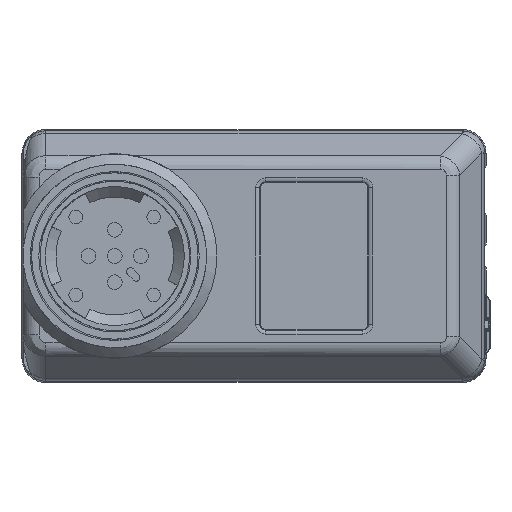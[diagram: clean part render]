
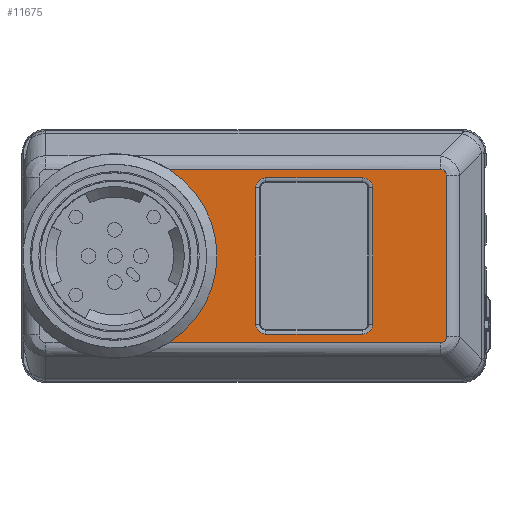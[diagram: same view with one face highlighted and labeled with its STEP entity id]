
A CAD part, front view. The second image highlights one B-rep face of the part: STEP entity #11675.
In plain terms, the highlighted planar face has unit normal (0, -1, 0).
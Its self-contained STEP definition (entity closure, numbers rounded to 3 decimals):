
#747=DIRECTION('',(1.,0.,0.));
#748=VECTOR('',#747,103.572);
#749=CARTESIAN_POINT('',(20.741,514.,-33.028));
#750=LINE('',#749,#748);
#755=CARTESIAN_POINT('',(0.,514.,0.));
#756=DIRECTION('',(0.,-1.,0.));
#757=DIRECTION('',(0.532,0.,-0.847));
#758=AXIS2_PLACEMENT_3D('',#755,#756,#757);
#760=CARTESIAN_POINT('',(0.,514.,0.));
#761=DIRECTION('',(0.,-1.,0.));
#762=DIRECTION('',(1.,0.,0.));
#763=AXIS2_PLACEMENT_3D('',#760,#761,#762);
#765=CARTESIAN_POINT('',(94.6,514.,-26.));
#766=DIRECTION('',(0.,-1.,0.));
#767=DIRECTION('',(0.,0.,-1.));
#768=AXIS2_PLACEMENT_3D('',#765,#766,#767);
#770=CARTESIAN_POINT('',(94.6,514.,26.));
#771=DIRECTION('',(0.,-1.,0.));
#772=DIRECTION('',(1.,0.,0.));
#773=AXIS2_PLACEMENT_3D('',#770,#771,#772);
#775=CARTESIAN_POINT('',(57.6,514.,26.));
#776=DIRECTION('',(0.,-1.,0.));
#777=DIRECTION('',(0.,0.,1.));
#778=AXIS2_PLACEMENT_3D('',#775,#776,#777);
#780=CARTESIAN_POINT('',(57.6,514.,-26.));
#781=DIRECTION('',(0.,-1.,0.));
#782=DIRECTION('',(-1.,0.,0.));
#783=AXIS2_PLACEMENT_3D('',#780,#781,#782);
#798=DIRECTION('',(-1.,0.,0.));
#799=VECTOR('',#798,103.572);
#800=CARTESIAN_POINT('',(124.313,514.,33.028));
#801=LINE('',#800,#799);
#1420=CARTESIAN_POINT('',(124.313,514.,-33.028));
#1421=CARTESIAN_POINT('',(124.648,514.,-33.028));
#1422=CARTESIAN_POINT('',(125.244,514.,-32.903));
#1423=CARTESIAN_POINT('',(125.941,514.,-32.438));
#1424=CARTESIAN_POINT('',(126.368,514.,-31.741));
#1425=CARTESIAN_POINT('',(126.478,514.,-31.175));
#1426=CARTESIAN_POINT('',(126.478,514.,-30.863));
#1446=DIRECTION('',(0.,0.,1.));
#1447=VECTOR('',#1446,61.725);
#1448=CARTESIAN_POINT('',(126.478,514.,-30.863));
#1449=LINE('',#1448,#1447);
#1612=CARTESIAN_POINT('',(126.478,514.,30.863));
#1613=CARTESIAN_POINT('',(126.478,514.,31.198));
#1614=CARTESIAN_POINT('',(126.353,514.,31.794));
#1615=CARTESIAN_POINT('',(125.888,514.,32.491));
#1616=CARTESIAN_POINT('',(125.191,514.,32.918));
#1617=CARTESIAN_POINT('',(124.625,514.,33.028));
#1618=CARTESIAN_POINT('',(124.313,514.,33.028));
#8040=DIRECTION('',(-1.,0.,0.));
#8041=VECTOR('',#8040,37.);
#8042=CARTESIAN_POINT('',(94.6,514.,-29.803));
#8043=LINE('',#8042,#8041);
#8054=DIRECTION('',(0.,0.,1.));
#8055=VECTOR('',#8054,52.);
#8056=CARTESIAN_POINT('',(53.797,514.,-26.));
#8057=LINE('',#8056,#8055);
#8068=DIRECTION('',(1.,0.,0.));
#8069=VECTOR('',#8068,37.);
#8070=CARTESIAN_POINT('',(57.6,514.,29.803));
#8071=LINE('',#8070,#8069);
#8082=DIRECTION('',(0.,0.,-1.));
#8083=VECTOR('',#8082,52.);
#8084=CARTESIAN_POINT('',(98.403,514.,26.));
#8085=LINE('',#8084,#8083);
#8846=CARTESIAN_POINT('',(20.741,514.,33.028));
#8847=VERTEX_POINT('',#8846);
#8848=CARTESIAN_POINT('',(39.,514.,0.));
#8849=VERTEX_POINT('',#8848);
#8850=CARTESIAN_POINT('',(20.741,514.,-33.028));
#8851=VERTEX_POINT('',#8850);
#8862=CARTESIAN_POINT('',(124.313,514.,33.028));
#8863=VERTEX_POINT('',#8862);
#8864=VERTEX_POINT('',#1612);
#8865=CARTESIAN_POINT('',(126.478,514.,-30.863));
#8866=VERTEX_POINT('',#8865);
#8867=VERTEX_POINT('',#1420);
#8868=CARTESIAN_POINT('',(94.6,514.,-29.803));
#8869=CARTESIAN_POINT('',(98.403,514.,-26.));
#8870=VERTEX_POINT('',#8868);
#8871=VERTEX_POINT('',#8869);
#8872=CARTESIAN_POINT('',(98.403,514.,26.));
#8873=VERTEX_POINT('',#8872);
#8874=CARTESIAN_POINT('',(94.6,514.,29.803));
#8875=VERTEX_POINT('',#8874);
#8876=CARTESIAN_POINT('',(57.6,514.,29.803));
#8877=VERTEX_POINT('',#8876);
#8878=CARTESIAN_POINT('',(53.797,514.,26.));
#8879=VERTEX_POINT('',#8878);
#8880=CARTESIAN_POINT('',(53.797,514.,-26.));
#8881=VERTEX_POINT('',#8880);
#8882=CARTESIAN_POINT('',(57.6,514.,-29.803));
#8883=VERTEX_POINT('',#8882);
#11639=CARTESIAN_POINT('',(-34.9,514.,-36.492));
#11640=DIRECTION('',(0.,-1.,0.));
#11641=DIRECTION('',(0.,0.,1.));
#11642=AXIS2_PLACEMENT_3D('',#11639,#11640,#11641);
#11643=PLANE('',#11642);
#11644=ORIENTED_EDGE('',*,*,#11339,.T.);
#11645=ORIENTED_EDGE('',*,*,#11337,.T.);
#11647=ORIENTED_EDGE('',*,*,#11646,.F.);
#11649=ORIENTED_EDGE('',*,*,#11648,.F.);
#11651=ORIENTED_EDGE('',*,*,#11650,.F.);
#11653=ORIENTED_EDGE('',*,*,#11652,.F.);
#11654=ORIENTED_EDGE('',*,*,#11624,.F.);
#11655=EDGE_LOOP('',(#11644,#11645,#11647,#11649,#11651,#11653,#11654));
#11656=FACE_OUTER_BOUND('',#11655,.F.);
#11658=ORIENTED_EDGE('',*,*,#11657,.T.);
#11660=ORIENTED_EDGE('',*,*,#11659,.F.);
#11662=ORIENTED_EDGE('',*,*,#11661,.T.);
#11664=ORIENTED_EDGE('',*,*,#11663,.F.);
#11666=ORIENTED_EDGE('',*,*,#11665,.T.);
#11668=ORIENTED_EDGE('',*,*,#11667,.F.);
#11670=ORIENTED_EDGE('',*,*,#11669,.T.);
#11672=ORIENTED_EDGE('',*,*,#11671,.F.);
#11673=EDGE_LOOP('',(#11658,#11660,#11662,#11664,#11666,#11668,#11670,#11672));
#11674=FACE_BOUND('',#11673,.F.);
#759=CIRCLE('',#758,39.);
#764=CIRCLE('',#763,39.);
#769=CIRCLE('',#768,3.803);
#774=CIRCLE('',#773,3.803);
#779=CIRCLE('',#778,3.803);
#784=CIRCLE('',#783,3.803);
#1427=B_SPLINE_CURVE_WITH_KNOTS('',3,(#1420,#1421,#1422,#1423,#1424,#1425,
#1426),.UNSPECIFIED.,.F.,.F.,(4,1,1,1,4),(0.,0.25,0.5,0.75,1.),
.UNSPECIFIED.);
#1619=B_SPLINE_CURVE_WITH_KNOTS('',3,(#1612,#1613,#1614,#1615,#1616,#1617,
#1618),.UNSPECIFIED.,.F.,.F.,(4,1,1,1,4),(0.,0.25,0.5,0.75,1.),
.UNSPECIFIED.);
#11337=EDGE_CURVE('',#8849,#8847,#764,.T.);
#11339=EDGE_CURVE('',#8851,#8849,#759,.T.);
#11624=EDGE_CURVE('',#8851,#8867,#750,.T.);
#11646=EDGE_CURVE('',#8863,#8847,#801,.T.);
#11648=EDGE_CURVE('',#8864,#8863,#1619,.T.);
#11650=EDGE_CURVE('',#8866,#8864,#1449,.T.);
#11652=EDGE_CURVE('',#8867,#8866,#1427,.T.);
#11657=EDGE_CURVE('',#8870,#8871,#769,.T.);
#11659=EDGE_CURVE('',#8873,#8871,#8085,.T.);
#11661=EDGE_CURVE('',#8873,#8875,#774,.T.);
#11663=EDGE_CURVE('',#8877,#8875,#8071,.T.);
#11665=EDGE_CURVE('',#8877,#8879,#779,.T.);
#11667=EDGE_CURVE('',#8881,#8879,#8057,.T.);
#11669=EDGE_CURVE('',#8881,#8883,#784,.T.);
#11671=EDGE_CURVE('',#8870,#8883,#8043,.T.);
#11675=ADVANCED_FACE('',(#11656,#11674),#11643,.T.);
